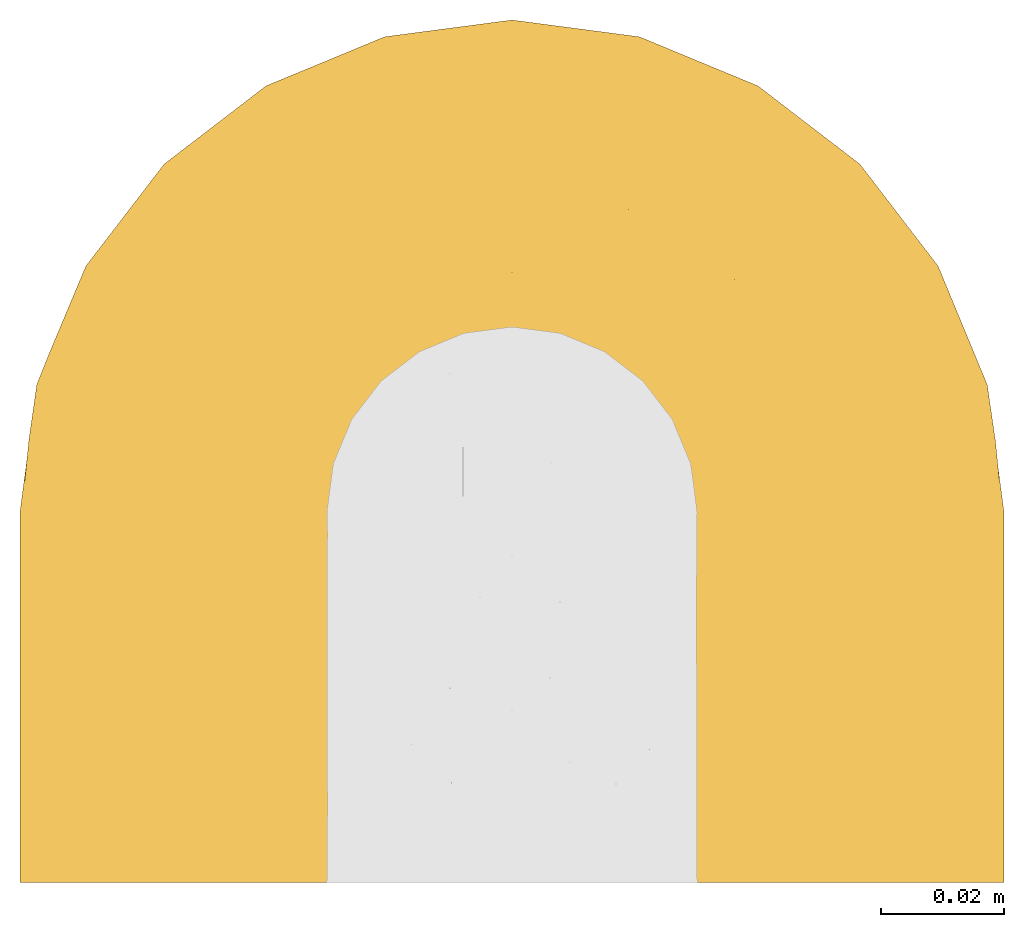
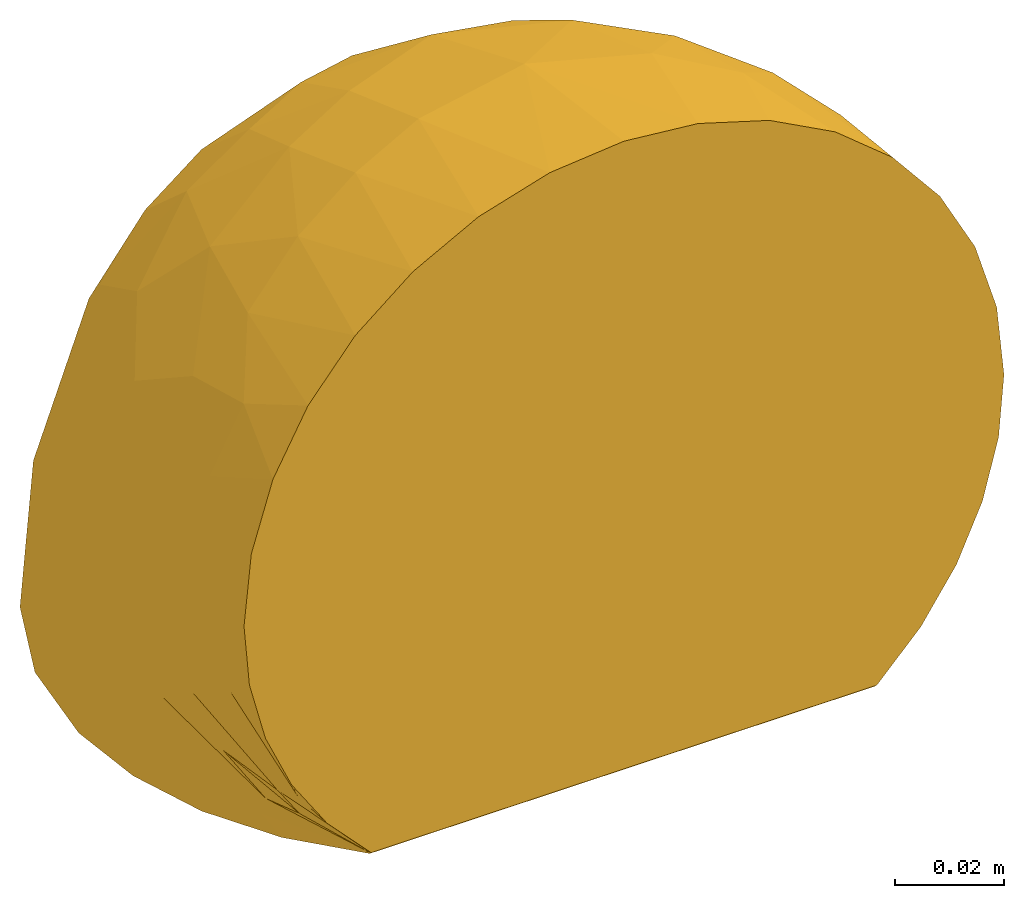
# One storey, part 1 of 2: 1 covering.
"""IFC2X3 building model written with IfcOpenShell, lengths in millimetres."""

import ifcopenshell
import ifcopenshell.guid

model = None  # the IFC model being written
_history = None  # IfcOwnerHistory: only IFC2X3 demands one
_inside = {}  # id of a spatial element -> (the spatial element, [elements in it])
_under = {}  # id of a project, library or spatial element -> (it, [spatial elements below it])
_declared = {}  # id of a project -> (the project, [libraries it declares])
_typed = {}  # id of a type object -> (the type object, [elements of that type])
_made_of = {}  # id of a material, layer set ... -> (it, [elements and type objects made of it])


def new_model(schema):
    """Start an empty IFC model of exactly this schema.

    Asked for "IFC4X3", IfcOpenShell would pick the latest addendum, in which some entities
    have other attributes; the version numbers below select the first issue.
    IFC2X3 requires an IfcOwnerHistory on every rooted entity: one is made here for all.
    """
    global model, _history
    if schema == "IFC4X3":
        model = ifcopenshell.file(schema_version=(4, 3, 0, 0))
    else:
        model = ifcopenshell.file(schema=schema)
    _inside.clear()
    _under.clear()
    _declared.clear()
    _typed.clear()
    _made_of.clear()
    _history = None
    if model.schema == "IFC2X3":
        org = make("IfcOrganization", Name="unknown")
        user = make(
            "IfcPersonAndOrganization",
            ThePerson=make("IfcPerson", FamilyName="unknown"),
            TheOrganization=org,
        )
        app = make(
            "IfcApplication",
            ApplicationDeveloper=org,
            Version="unknown",
            ApplicationFullName="unknown",
            ApplicationIdentifier="unknown",
        )
        _history = make(
            "IfcOwnerHistory",
            OwningUser=user,
            OwningApplication=app,
            ChangeAction="ADDED",
            CreationDate=0,
        )
    return model


def make(cls, **values):
    """One entity of the class cls with the attributes given. An attribute that is None is left unset."""
    return model.create_entity(
        cls, **{name: value for name, value in values.items() if value is not None}
    )


def entity(cls, *values):
    """Any entity or typed value of the class cls, its attributes in the order of the schema. None: left unset."""
    e = model.create_entity(cls)
    for i, value in enumerate(values):
        if value is not None:
            e[i] = value
    return e


def rooted(cls, **values):
    """An entity with a GlobalId (a new one), such as an element, a storey or a relation."""
    return make(cls, GlobalId=ifcopenshell.guid.new(), OwnerHistory=_history, **values)


def si_unit(unit_type, name, prefix=None):
    """IfcSIUnit, for example si_unit("LENGTHUNIT", "METRE", prefix="MILLI")."""
    return make("IfcSIUnit", UnitType=unit_type, Prefix=prefix, Name=name)


def converted_unit(unit_type, name, factor, base, dimensions=None, offset=None):
    """IfcConversionBasedUnit, such as the inch: factor (a typed value) times the base unit."""
    return make(
        "IfcConversionBasedUnit"
        if offset is None
        else "IfcConversionBasedUnitWithOffset",
        ConversionOffset=offset,
        Dimensions=None
        if dimensions is None
        else entity("IfcDimensionalExponents", *dimensions),
        UnitType=unit_type,
        Name=name,
        ConversionFactor=make(
            "IfcMeasureWithUnit", ValueComponent=factor, UnitComponent=base
        ),
    )


def derived_unit(unit_type, elements):
    """IfcDerivedUnit: a product of units, each with its exponent."""
    return make(
        "IfcDerivedUnit",
        Elements=[
            make("IfcDerivedUnitElement", Unit=unit, Exponent=power)
            for unit, power in elements
        ],
        UnitType=unit_type,
    )


def assignment(units):
    """IfcUnitAssignment: the units of a project."""
    return None if units is None else make("IfcUnitAssignment", Units=units)


def point(xyz):
    """IfcCartesianPoint."""
    return None if xyz is None else make("IfcCartesianPoint", Coordinates=xyz)


def direction(xyz):
    """IfcDirection."""
    return None if xyz is None else make("IfcDirection", DirectionRatios=xyz)


def frame(location, z_axis=None, x_axis=None):
    """IfcAxis2Placement3D, a coordinate frame: its origin and axes. An axis left out is left unset."""
    return make(
        "IfcAxis2Placement3D",
        Location=point(location),
        Axis=direction(z_axis),
        RefDirection=direction(x_axis),
    )


def origin_with_axes():
    """The frame at (0, 0, 0) with the z axis (0, 0, 1) and the x axis (1, 0, 0) written out."""
    return frame((0.0, 0.0, 0.0), z_axis=(0.0, 0.0, 1.0), x_axis=(1.0, 0.0, 0.0))


def place(relative_to, where):
    """IfcLocalPlacement: puts the frame where relative to a parent placement (None: the world)."""
    return make(
        "IfcLocalPlacement", PlacementRelTo=relative_to, RelativePlacement=where
    )


def context(
    kind, dimensions, precision=None, world=None, true_north=None, identifier=None
):
    """IfcGeometricRepresentationContext, for example the 3D "Model" context."""
    return make(
        "IfcGeometricRepresentationContext",
        ContextIdentifier=identifier,
        ContextType=kind,
        CoordinateSpaceDimension=dimensions,
        Precision=precision,
        WorldCoordinateSystem=world,
        TrueNorth=true_north,
    )


def subcontext(parent, identifier, kind, view, scale=None):
    """IfcGeometricRepresentationSubContext, for example "Body" below "Model"."""
    return make(
        "IfcGeometricRepresentationSubContext",
        ContextIdentifier=identifier,
        ContextType=kind,
        ParentContext=parent,
        TargetScale=scale,
        TargetView=view,
    )


def project(units=None, contexts=None):
    """IfcProject with its units and contexts."""
    return rooted(
        "IfcProject",
        Name="project",
        RepresentationContexts=contexts,
        UnitsInContext=assignment(units),
    )


def spatial(cls, under=None, at=None, **own):
    """A site, building, storey or space (cls), placed at a placement, below another one or the project."""
    s = rooted(cls, ObjectPlacement=at, **own)
    if under is not None:
        _under.setdefault(under.id(), (under, []))[1].append(s)
    return s


def faces_of(points, faces, orient=None, outer=None):
    """IfcFace entities. A face is a list of loops; a loop is a list of indices into points, from 0.

    orient and outer hold one flag for each loop. By default every Orientation is true, the
    first loop of a face is its IfcFaceOuterBound and the others are IfcFaceBound.
    """
    made = []
    for i, loops in enumerate(faces):
        bounds = []
        for j, loop in enumerate(loops):
            is_outer = j == 0 if outer is None else outer[i][j]
            bounds.append(
                make(
                    "IfcFaceOuterBound" if is_outer else "IfcFaceBound",
                    Bound=make("IfcPolyLoop", Polygon=[points[k] for k in loop]),
                    Orientation=True if orient is None else orient[i][j],
                )
            )
        made.append(make("IfcFace", Bounds=bounds))
    return made


def open_shell(faces, orient=None, outer=None):
    """The faces of one IfcOpenShell. surface_model builds it on its shared points."""
    return ("IfcOpenShell", faces, orient, outer)


def surface_model(cls, points, shells):
    """IfcFaceBasedSurfaceModel or IfcShellBasedSurfaceModel (cls): surfaces that need not close."""
    shared = [point(p) for p in points]
    made = [make(c, CfsFaces=faces_of(shared, fs, o, b)) for c, fs, o, b in shells]
    if cls == "IfcFaceBasedSurfaceModel":
        return make(cls, FbsmFaces=made)
    return make(cls, SbsmBoundary=made)


def shape(context_of_items, identifier, shape_type, items):
    """IfcShapeRepresentation: the items that make up one representation, for example the "Body"."""
    return make(
        "IfcShapeRepresentation",
        ContextOfItems=context_of_items,
        RepresentationIdentifier=identifier,
        RepresentationType=shape_type,
        Items=items,
    )


def source(mapping_origin, context_of_items, identifier, shape_type, items):
    """IfcRepresentationMap: a shape defined once, which mapped items show again and again."""
    return make(
        "IfcRepresentationMap",
        MappingOrigin=mapping_origin,
        MappedRepresentation=shape(context_of_items, identifier, shape_type, items),
    )


def transform(
    local_origin,
    x_axis=None,
    y_axis=None,
    z_axis=None,
    scale=None,
    scale2=None,
    scale3=None,
    uniform=True,
):
    """IfcCartesianTransformationOperator3D, or its non-uniform kind. x_axis, y_axis, z_axis: its Axis1, 2, 3."""
    if uniform:
        return make(
            "IfcCartesianTransformationOperator3D",
            Axis1=direction(x_axis),
            Axis2=direction(y_axis),
            LocalOrigin=point(local_origin),
            Scale=scale,
            Axis3=direction(z_axis),
        )
    return make(
        "IfcCartesianTransformationOperator3DnonUniform",
        Axis1=direction(x_axis),
        Axis2=direction(y_axis),
        LocalOrigin=point(local_origin),
        Scale=scale,
        Axis3=direction(z_axis),
        Scale2=scale2,
        Scale3=scale3,
    )


def mapped(mapping_source, mapping_target):
    """IfcMappedItem: shows the shape of a source again, moved by a transform."""
    return make(
        "IfcMappedItem", MappingSource=mapping_source, MappingTarget=mapping_target
    )


def made_of(thing, what):
    """Note that an element or type object is made of a material, layer set ...; save() writes the relation."""
    if what is not None:
        _made_of.setdefault(what.id(), (what, []))[1].append(thing)
    return thing


def element(
    cls,
    number,
    at=None,
    inside=None,
    cuts=None,
    type_object=None,
    material=None,
    context=None,
    identifier="Body",
    shape_type=None,
    held_by="IfcProductDefinitionShape",
    body=None,
    shapes=None,
    **own,
):
    """One element of the class cls, such as IfcWall. Its Tag is "e" and its number.

    at: its placement. inside: the storey or other place that contains it. cuts: it is an
    opening in that element (IfcRelVoidsElement). A single representation is given by context,
    identifier, shape_type and body (its items); several are given by shapes. held_by: the class
    of the entity that holds the representations. save() writes the other relations.
    """
    e = rooted(cls, Tag="e%d" % number, ObjectPlacement=at, **own)
    if body is not None:
        shapes = [shape(context, identifier, shape_type, body)]
    if shapes is not None:
        e.Representation = make(held_by, Representations=shapes)
    if inside is not None:
        _inside.setdefault(inside.id(), (inside, []))[1].append(e)
    if cuts is not None:
        rooted(
            "IfcRelVoidsElement", RelatingBuildingElement=cuts, RelatedOpeningElement=e
        )
    if type_object is not None:
        _typed.setdefault(type_object.id(), (type_object, []))[1].append(e)
    return made_of(e, material)


def aggregate(whole, parts):
    """IfcRelAggregates: a whole, such as a stair, and the parts it consists of."""
    return rooted("IfcRelAggregates", RelatingObject=whole, RelatedObjects=parts)


def save(model, path):
    """Write the relations noted so far, then the file.

    IfcRelAggregates (storeys below a building ...), IfcRelContainedInSpatialStructure (elements
    in a storey), IfcRelDefinesByType, IfcRelAssociatesMaterial and IfcRelDeclares: one each for
    every whole, place, type object, material and project.
    """
    for whole, parts in _under.values():
        aggregate(whole, parts)
    for where, things in _inside.values():
        rooted(
            "IfcRelContainedInSpatialStructure",
            RelatedElements=things,
            RelatingStructure=where,
        )
    for kind, things in _typed.values():
        rooted("IfcRelDefinesByType", RelatedObjects=things, RelatingType=kind)
    for what, things in _made_of.values():
        rooted("IfcRelAssociatesMaterial", RelatedObjects=things, RelatingMaterial=what)
    for by, libraries in _declared.values():
        rooted("IfcRelDeclares", RelatingContext=by, RelatedDefinitions=libraries)
    model.write(path)


model = new_model("IFC2X3")

# Units and contexts
model_context = context("Model", 3, precision=0.01, world=frame((0.0, 4.29681676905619e-09, 0.0)), true_north=direction((4.01073788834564e-13, 1.0)))
plan_context = context("Plan", 3, precision=0.01, world=frame((0.0, 4.29681676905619e-09, 0.0)), true_north=direction((4.01073788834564e-13, 1.0)))
body_context = subcontext(model_context, "Body", "Model", "MODEL_VIEW")
ifc_project = project(units=[converted_unit("PLANEANGLEUNIT", "DEGREE", entity("IfcPositiveLengthMeasure", 0.0174532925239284), si_unit("PLANEANGLEUNIT", "RADIAN"), dimensions=[0, 0, 0, 0, 0, 0, 0]), si_unit("AREAUNIT", "SQUARE_METRE"), si_unit("LENGTHUNIT", "METRE", prefix="MILLI"), si_unit("MASSUNIT", "GRAM", prefix="KILO"), si_unit("POWERUNIT", "WATT"), si_unit("PRESSUREUNIT", "PASCAL"), si_unit("FORCEUNIT", "NEWTON", prefix="KILO"), si_unit("ELECTRICVOLTAGEUNIT", "VOLT"), si_unit("ELECTRICCURRENTUNIT", "AMPERE"), si_unit("THERMODYNAMICTEMPERATUREUNIT", "DEGREE_CELSIUS"), si_unit("TIMEUNIT", "SECOND"), si_unit("VOLUMEUNIT", "CUBIC_METRE"), derived_unit("LINEARVELOCITYUNIT", [(si_unit("LENGTHUNIT", "METRE"), 1), (si_unit("TIMEUNIT", "SECOND"), -1)]), derived_unit("VOLUMETRICFLOWRATEUNIT", [(si_unit("VOLUMEUNIT", "CUBIC_METRE"), 1), (si_unit("TIMEUNIT", "SECOND"), -1)]), derived_unit("THERMALTRANSMITTANCEUNIT", [(si_unit("POWERUNIT", "WATT"), 1), (si_unit("THERMODYNAMICTEMPERATUREUNIT", "KELVIN"), -1), (si_unit("AREAUNIT", "SQUARE_METRE"), -1)]), derived_unit("SOUNDPRESSUREUNIT", [(si_unit("PRESSUREUNIT", "PASCAL"), 1)])], contexts=[model_context, plan_context])

# Site, building, storey
site_placement = place(None, frame((0.0, -4.29681676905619e-09, 0.0), z_axis=(0.0, 0.0, 1.0), x_axis=(1.0, 0.0, 0.0)))
site = spatial("IfcSite", under=ifc_project, at=site_placement, Name="ENGM", CompositionType="ELEMENT")
building_placement = place(site_placement, frame((0.0, 4.29681676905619e-09, 0.0), z_axis=(0.0, 0.0, 1.0), x_axis=(1.0, 0.0, 0.0)))
building = spatial("IfcBuilding", under=site, at=building_placement, Name="TI", CompositionType="ELEMENT")
storey_placement = place(building_placement, frame((0.0, 0.0, 203000.0), z_axis=(0.0, 0.0, 1.0), x_axis=(1.0, 0.0, 0.0)))
storey = spatial("IfcBuildingStorey", under=building, at=storey_placement, Name="Nivå C + 2,7 m", CompositionType="ELEMENT", Elevation=203000.0)

# Covering
shared_shape = source(origin_with_axes(), body_context, "Body", "SurfaceModel", [
    surface_model("IfcShellBasedSurfaceModel", [(66.68615, 60.4, 44.5533), (44.55885, 60.4, 66.68245), (56.71233, 60.4, 56.70759), (74.09701, 60.4, 30.6867), (78.66008, 60.4, 15.64073), (-59.86937, 60.4, -53.36384), (-13.45191, 60.4, 79.06382), (0.0, 60.4, 80.2), (-26.52266, 60.4, 75.68744), (66.68245, 60.4, -44.55885), (80.2, 60.4, 0.0), (78.65881, 60.4, -15.6471), (74.09448, 60.4, -30.6928), (56.70759, 60.4, -56.71233), (44.5533, 60.4, -66.68615), (30.6867, 60.4, -74.09701), (-38.85297, 60.4, -70.16044), (-50.07051, 60.4, -62.6497), (-26.53389, 60.4, -75.6835), (0.0, 60.4, -80.2), (-13.46016, 60.4, -79.06241), (15.64073, 60.4, -78.66008), (-60.4, 47.38479, 64.70488), (-60.4, 59.86937, -53.36384), (-60.4, 47.38479, -64.70488), (-60.4, 16.77314, -78.42641), (-60.4, 16.77314, 78.42641), (-60.4, 32.80442, -73.18408), (-60.4, -20.75729, 77.46726), (-60.4, 0.0, 80.2), (-60.4, 59.86937, 53.36384), (-60.4, 32.80442, 73.18408), (-60.4, 0.0, -80.2), (-60.4, -20.75729, -77.46726), (-60.4, -40.1, -69.45524), (-60.4, -77.46726, -20.75729), (-60.4, -56.70997, -56.70997), (-60.4, -69.45524, -40.1), (-60.4, -40.1, 69.45524), (-60.4, -77.46726, 20.75729), (-60.4, -56.70997, 56.70997), (-60.4, -69.45524, 40.1), (-60.4, -80.2, 0.0), (-60.02478, 60.02478, 53.36384), (-60.02478, 60.02478, -53.36384), (-59.86937, 60.4, 53.36384), (-35.13493, 49.31431, -73.18165), (-30.44414, 36.38988, -77.12086), (-47.24837, 50.14287, -67.23448), (-51.76844, 1.71692, -80.2), (-49.59906, 26.61132, -76.22785), (-37.28592, 4.59768, -80.2), (-52.73185, 51.8369, -63.56342), (-42.45319, 40.2421, -72.90935), (-51.54432, 46.0645, -67.34579), (-56.12324, 44.39109, -67.16398), (-60.25988, 59.9274, -53.36384), (-36.88164, 25.89057, -78.00411), (-21.1535, 51.10695, -77.64859), (-45.04463, 56.76413, -66.64151), (-49.15929, 54.99138, -64.30522), (-59.9274, 60.25988, -53.36384), (-59.97609, 60.14233, -53.36384), (-20.84125, 41.65154, -78.45831), (-4.59768, 37.28592, -80.2), (-11.14421, 27.48834, -80.2), (-60.14233, 59.97609, -53.36384), (-2.29884, 48.84296, -80.2), (-17.69075, 17.69075, -80.2), (-27.48834, 11.14421, -80.2), (-48.22281, 2.42219, -80.2), (-38.04775, -11.91191, -78.72944), (75.40917, 24.01004, 0.0), (72.25534, 25.59122, -23.28207), (10.61001, 22.76207, -77.67441), (21.22289, 41.97871, -76.74814), (31.34576, 25.38063, -70.73221), (-3.74675, -31.18103, -64.77575), (-5.13665, -50.63443, -48.82266), (-32.87645, -45.29789, -63.62694), (-27.38508, -24.49772, -74.09514), (-4.74736, -5.39378, -75.94549), (46.21326, 31.25344, -62.60562), (36.40138, 43.87324, -70.73221), (-44.8504, -25.95034, -75.39633), (39.01921, -39.01921, 0.0), (49.22532, -23.71846, -19.55404), (61.36317, -9.9, 0.0), (-21.92667, -8.25016, -78.08521), (-22.38404, -68.61058, -30.69121), (-34.25952, -60.8409, -48.82266), (-34.15394, -76.26325, -15.12592), (22.35578, -47.44944, -26.93623), (25.62001, -10.18883, -61.99781), (44.02353, 6.8413, -56.46123), (37.09986, -19.13964, -46.3807), (18.79123, 5.85638, -71.78749), (57.98575, 29.33557, -50.88062), (9.9, -61.36317, 0.0), (66.5747, 27.65458, -37.80789), (57.74343, 3.50566, -37.8079), (18.9328, -40.15021, -43.03133), (9.31059, -35.56603, -55.16599), (-7.14053, -68.17975, -15.05794), (0.87984, -60.45932, -28.12389), (62.71669, -0.27663, -22.91513), (-24.01004, -75.40917, 0.0), (4.02735, 8.3767, -77.00574), (9.44148, -11.27075, -69.70024), (47.17014, -18.05894, -33.77057), (58.25151, 27.96235, 50.12561), (62.11094, 13.63756, 37.80204), (68.86186, 38.33131, 37.80204), (-21.55327, -72.8771, 16.7886), (-8.93094, -63.85731, 30.69121), (-37.04517, -72.05186, 30.69121), (48.04336, -22.81151, 24.73654), (28.08242, 17.78952, 70.72908), (20.54188, 39.16084, 76.74624), (8.43896, 21.5252, 77.99965), (43.58186, 7.06783, 56.95761), (22.34051, -7.09908, 65.42836), (34.21801, -17.24442, 50.87545), (-28.29947, -59.40083, 48.82266), (5.41219, -45.68707, 47.74068), (-11.73307, -37.38098, 63.62694), (2.27362, -63.23248, 17.75104), (23.80702, -49.34072, 18.96603), (49.08404, -10.51145, 39.06557), (-38.19227, -11.44439, 78.82289), (-34.65245, -26.97661, 74.09514), (-48.22281, 2.42219, 80.2), (27.59731, -37.89169, 36.27535), (-37.37974, -46.36918, 63.62694), (63.90334, 2.03316, 22.68626), (73.38333, 30.20673, 23.2758), (47.23671, 32.15612, 61.99357), (30.6928, 60.4, 74.09448), (15.6471, 60.4, 78.65881), (34.6965, 35.87563, 70.72909), (-12.06912, -23.90977, 71.26885), (-7.75233, -9.0194, 75.6161), (-23.22723, -15.01108, 76.62586), (-37.28592, 4.59768, 80.2), (-27.48834, 11.14421, 80.2), (-2.29884, 48.84296, 80.2), (-4.59768, 37.28592, 80.2), (13.04574, 5.0174, 73.71794), (6.541, -23.53082, 65.01615), (-2.98218, 9.37603, 78.50255), (-11.14421, 27.48834, 80.2), (-17.69075, 17.69075, 80.2), (-51.76844, 1.71692, 80.2), (-52.73034, 51.83578, 63.56483), (-47.24048, 50.13672, 67.24098), (-45.0362, 56.76319, 66.64715), (-49.15393, 54.98866, 64.3097), (-35.12322, 49.31397, 73.18652), (-60.25988, 59.9274, 53.36384), (-56.12324, 44.39109, 67.16398), (-51.54437, 46.06455, 67.34575), (-60.14233, 59.97609, 53.36384), (-49.59906, 26.61132, 76.22785), (-36.88467, 25.90213, 78.00143), (-59.97609, 60.14233, 53.36384), (-30.4326, 36.38986, 77.12344), (-21.14326, 51.1076, 77.65114), (-38.84256, 60.4, 70.1662), (-59.9274, 60.25988, 53.36384), (-50.06396, 60.4, 62.65492), (-20.83441, 41.65564, 78.45925), (-42.44607, 40.23511, 72.91391)], [open_shell([[[0, 1, 2]], [[0, 3, 4]], [[1, 0, 5]], [[6, 7, 8]], [[8, 7, 5]], [[9, 10, 11]], [[9, 11, 12]], [[9, 13, 14]], [[9, 14, 5]], [[10, 9, 5]], [[15, 5, 14]], [[5, 16, 17]], [[16, 5, 18]], [[19, 20, 5]], [[18, 5, 20]], [[15, 19, 5]], [[15, 21, 19]], [[10, 5, 0]], [[22, 23, 24]], [[24, 25, 26]], [[25, 24, 27]], [[25, 28, 29]], [[30, 23, 22]], [[22, 26, 31]], [[24, 26, 22]], [[25, 29, 26]], [[25, 32, 28]], [[33, 34, 35]], [[36, 37, 35]], [[36, 35, 34]], [[33, 35, 38]], [[38, 39, 40]], [[38, 28, 33]], [[40, 39, 41]], [[38, 35, 39]], [[42, 39, 35]], [[33, 28, 32]], [[23, 30, 43]], [[44, 23, 43]], [[45, 5, 43]], [[44, 43, 5]], [[46, 47, 48]], [[49, 32, 25]], [[49, 50, 51]], [[44, 48, 52]], [[50, 49, 25]], [[52, 53, 54]], [[25, 27, 50]], [[55, 24, 56]], [[54, 53, 57]], [[20, 58, 18]], [[24, 23, 56]], [[59, 60, 61]], [[59, 17, 16]], [[53, 48, 47]], [[5, 17, 61]], [[62, 60, 48]], [[61, 17, 59]], [[16, 18, 59]], [[46, 60, 59]], [[50, 57, 51]], [[63, 58, 64]], [[55, 27, 24]], [[46, 59, 58]], [[47, 63, 65]], [[52, 54, 66]], [[58, 59, 18]], [[20, 67, 58]], [[62, 48, 44]], [[54, 50, 55]], [[63, 46, 58]], [[47, 68, 57]], [[57, 68, 69]], [[54, 57, 50]], [[48, 60, 46]], [[61, 60, 62]], [[65, 68, 47]], [[47, 46, 63]], [[63, 64, 65]], [[27, 55, 50]], [[67, 20, 19]], [[67, 64, 58]], [[54, 56, 66]], [[48, 53, 52]], [[57, 53, 47]], [[56, 54, 55]], [[44, 52, 66]], [[51, 57, 69]], [[70, 71, 33]], [[70, 51, 71]], [[11, 72, 73]], [[74, 75, 76]], [[77, 78, 79]], [[77, 80, 81]], [[82, 76, 83]], [[71, 84, 33]], [[85, 86, 87]], [[15, 75, 21]], [[88, 81, 80]], [[12, 11, 73]], [[89, 37, 90]], [[35, 91, 42]], [[86, 85, 92]], [[37, 89, 35]], [[37, 36, 90]], [[34, 79, 36]], [[84, 79, 34]], [[93, 94, 95]], [[19, 21, 67]], [[76, 94, 96]], [[13, 9, 97]], [[82, 13, 97]], [[85, 98, 92]], [[99, 73, 100]], [[83, 75, 15]], [[21, 75, 67]], [[101, 78, 102]], [[103, 91, 89]], [[92, 98, 103]], [[104, 78, 101]], [[87, 86, 105]], [[103, 98, 106]], [[82, 94, 76]], [[105, 72, 87]], [[12, 99, 9]], [[107, 108, 81]], [[11, 10, 72]], [[97, 99, 100]], [[93, 96, 94]], [[74, 64, 75]], [[77, 79, 80]], [[14, 83, 15]], [[90, 79, 78]], [[107, 65, 74]], [[92, 101, 109]], [[73, 105, 100]], [[80, 71, 88]], [[102, 95, 101]], [[74, 96, 107]], [[96, 74, 76]], [[14, 13, 82]], [[75, 83, 76]], [[82, 83, 14]], [[82, 97, 94]], [[97, 100, 94]], [[95, 94, 100]], [[109, 95, 100]], [[95, 109, 101]], [[79, 90, 36]], [[89, 90, 78]], [[33, 32, 70]], [[69, 88, 51]], [[71, 80, 84]], [[81, 69, 68]], [[51, 88, 71]], [[69, 81, 88]], [[79, 84, 80]], [[34, 33, 84]], [[108, 96, 93]], [[96, 108, 107]], [[91, 103, 106]], [[104, 103, 89]], [[42, 91, 106]], [[89, 91, 35]], [[102, 108, 93]], [[77, 81, 108]], [[81, 68, 107]], [[105, 73, 72]], [[78, 104, 89]], [[92, 103, 104]], [[9, 99, 97]], [[12, 73, 99]], [[75, 64, 67]], [[65, 107, 68]], [[65, 64, 74]], [[109, 105, 86]], [[105, 109, 100]], [[92, 109, 86]], [[104, 101, 92]], [[102, 78, 77]], [[108, 102, 77]], [[95, 102, 93]], [[110, 111, 112]], [[42, 106, 113]], [[113, 114, 115]], [[87, 116, 85]], [[117, 118, 119]], [[120, 121, 122]], [[123, 124, 125]], [[126, 127, 114]], [[122, 128, 120]], [[98, 85, 127]], [[129, 28, 130]], [[28, 129, 131]], [[132, 127, 116]], [[133, 130, 38]], [[38, 40, 133]], [[115, 41, 39]], [[120, 128, 111]], [[41, 115, 123]], [[38, 130, 28]], [[85, 116, 127]], [[111, 134, 135]], [[133, 123, 125]], [[110, 2, 136]], [[128, 116, 134]], [[4, 3, 135]], [[2, 1, 136]], [[118, 137, 138]], [[135, 3, 112]], [[10, 4, 72]], [[137, 139, 1]], [[140, 141, 142]], [[41, 123, 40]], [[129, 142, 143]], [[118, 117, 139]], [[141, 144, 142]], [[120, 111, 110]], [[138, 145, 118]], [[134, 72, 135]], [[119, 118, 146]], [[139, 117, 136]], [[72, 4, 135]], [[128, 134, 111]], [[121, 117, 147]], [[0, 112, 3]], [[124, 123, 114]], [[122, 148, 124]], [[132, 122, 124]], [[126, 114, 113]], [[132, 114, 127]], [[148, 122, 121]], [[0, 2, 110]], [[135, 112, 111]], [[110, 112, 0]], [[110, 136, 120]], [[136, 117, 120]], [[121, 120, 117]], [[147, 117, 119]], [[141, 140, 148]], [[149, 150, 151]], [[119, 149, 147]], [[123, 133, 40]], [[130, 133, 125]], [[131, 129, 143]], [[131, 29, 28]], [[142, 129, 130]], [[140, 130, 125]], [[144, 149, 151]], [[130, 140, 142]], [[148, 140, 125]], [[124, 148, 125]], [[148, 121, 147]], [[116, 87, 134]], [[72, 134, 87]], [[132, 116, 128]], [[114, 132, 124]], [[39, 42, 113]], [[123, 115, 114]], [[39, 113, 115]], [[126, 106, 98]], [[106, 126, 113]], [[98, 127, 126]], [[150, 149, 119]], [[148, 147, 141]], [[141, 147, 149]], [[1, 139, 136]], [[137, 118, 139]], [[145, 138, 7]], [[145, 146, 118]], [[132, 128, 122]], [[119, 146, 150]], [[141, 149, 144]], [[144, 143, 142]], [[26, 29, 152]], [[153, 154, 43]], [[155, 156, 157]], [[22, 158, 30]], [[159, 160, 158]], [[43, 161, 153]], [[160, 162, 163]], [[154, 164, 43]], [[165, 157, 154]], [[26, 162, 31]], [[163, 143, 144]], [[26, 152, 162]], [[166, 145, 6]], [[159, 31, 162]], [[166, 8, 167]], [[7, 6, 145]], [[168, 164, 156]], [[166, 167, 155]], [[6, 8, 166]], [[157, 166, 155]], [[169, 155, 167]], [[170, 166, 157]], [[143, 162, 152]], [[154, 157, 156]], [[170, 146, 166]], [[169, 45, 168]], [[169, 168, 155]], [[22, 159, 158]], [[165, 163, 151]], [[154, 153, 171]], [[165, 150, 170]], [[163, 165, 171]], [[143, 163, 162]], [[168, 156, 155]], [[154, 156, 164]], [[157, 165, 170]], [[31, 159, 22]], [[150, 165, 151]], [[150, 146, 170]], [[160, 159, 162]], [[166, 146, 145]], [[161, 158, 160]], [[171, 153, 160]], [[163, 171, 160]], [[154, 171, 165]], [[153, 161, 160]], [[144, 151, 163]], [[1, 138, 137]], [[1, 5, 7]], [[7, 138, 1]], [[167, 8, 169]], [[5, 169, 8]], [[169, 5, 45]], [[10, 0, 4]]])]),
])
covering_placement = place(storey_placement, frame((608617.36825, 698746.21699, 6915.24411), z_axis=(1.0, 0.0, 0.0), x_axis=(0.0, 0.0, 1.0)))
element("IfcCovering", 1, at=covering_placement, inside=storey, Name="BI11T - Rørskål m/Al.folie - varme 60-25", PredefinedType="INSULATION", context=body_context, shape_type="MappedRepresentation", body=[
    mapped(shared_shape, transform((0.0, 0.0, 0.0), scale=1.0)),
])

save(model, "model.ifc")
